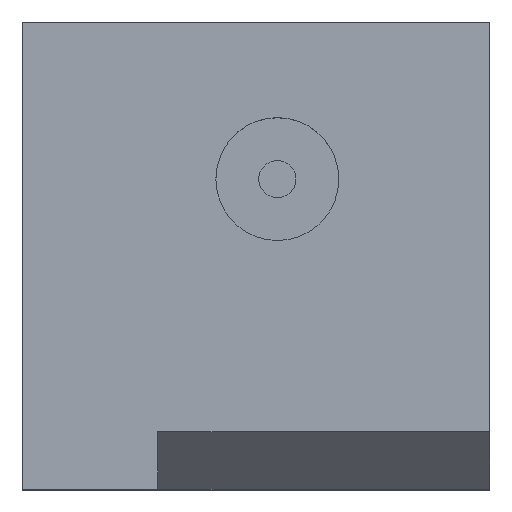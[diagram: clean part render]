
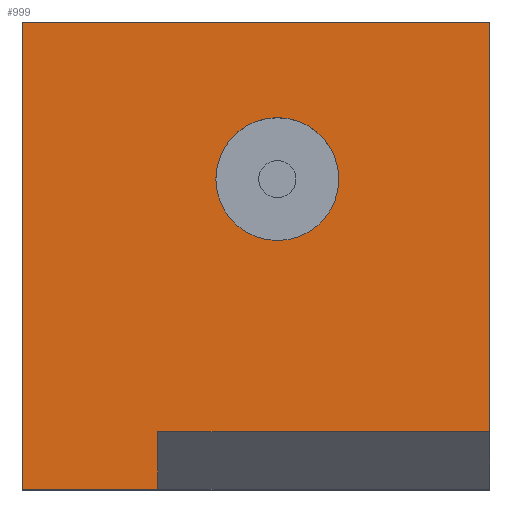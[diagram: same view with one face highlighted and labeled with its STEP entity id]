
A CAD part, top view. The second image highlights one B-rep face of the part: STEP entity #999.
In plain terms, the highlighted planar face has unit normal (0, 0, 1).
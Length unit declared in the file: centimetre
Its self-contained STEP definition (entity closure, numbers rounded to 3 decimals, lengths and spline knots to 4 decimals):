
#19 = VECTOR ( 'NONE', #462, 100. ) ;
#37 = ORIENTED_EDGE ( 'NONE', *, *, #60, .T. ) ;
#40 = CARTESIAN_POINT ( 'NONE',  ( 1000., 1000., 1000. ) ) ;
#43 = VERTEX_POINT ( 'NONE', #127 ) ;
#60 = EDGE_CURVE ( 'NONE', #861, #844, #694, .T. ) ;
#64 = CARTESIAN_POINT ( 'NONE',  ( 677.3129, 663.8071, 1000. ) ) ;
#68 = FACE_BOUND ( 'NONE', #585, .T. ) ;
#73 = EDGE_CURVE ( 'NONE', #896, #861, #1016, .T. ) ;
#83 = CARTESIAN_POINT ( 'NONE',  ( 414.0661, 663.8071, 1000. ) ) ;
#84 = ORIENTED_EDGE ( 'NONE', *, *, #194, .F. ) ;
#114 = EDGE_CURVE ( 'NONE', #844, #1018, #409, .T. ) ;
#127 = CARTESIAN_POINT ( 'NONE',  ( 0., 0., 1000. ) ) ;
#130 = VERTEX_POINT ( 'NONE', #83 ) ;
#148 = ORIENTED_EDGE ( 'NONE', *, *, #237, .T. ) ;
#155 = LINE ( 'NONE', #811, #334 ) ;
#194 = EDGE_CURVE ( 'NONE', #576, #130, #674, .T. ) ;
#202 = CARTESIAN_POINT ( 'NONE',  ( 289.9883, 123.3166, 1000. ) ) ;
#209 = AXIS2_PLACEMENT_3D ( 'NONE', #240, #628, #966 ) ;
#223 = CARTESIAN_POINT ( 'NONE',  ( 0., 1000., 1000. ) ) ;
#237 = EDGE_CURVE ( 'NONE', #43, #975, #155, .T. ) ;
#240 = CARTESIAN_POINT ( 'NONE',  ( 545.6895, 663.8071, 1000. ) ) ;
#248 = DIRECTION ( 'NONE',  ( 1., 0., 0. ) ) ;
#320 = CARTESIAN_POINT ( 'NONE',  ( 0., 0., 1000. ) ) ;
#329 = DIRECTION ( 'NONE',  ( -1., 0., 0. ) ) ;
#334 = VECTOR ( 'NONE', #790, 100. ) ;
#349 = CARTESIAN_POINT ( 'NONE',  ( 1000., 1000., 1000. ) ) ;
#409 = LINE ( 'NONE', #724, #460 ) ;
#441 = CIRCLE ( 'NONE', #698, 131.6234 ) ;
#460 = VECTOR ( 'NONE', #329, 100. ) ;
#462 = DIRECTION ( 'NONE',  ( 0., 1., 0. ) ) ;
#478 = DIRECTION ( 'NONE',  ( 0., -1., 0. ) ) ;
#493 = DIRECTION ( 'NONE',  ( 0., 0., 1. ) ) ;
#508 = VECTOR ( 'NONE', #774, 100. ) ;
#566 = CARTESIAN_POINT ( 'NONE',  ( 545.6895, 663.8071, 1000. ) ) ;
#571 = EDGE_CURVE ( 'NONE', #1018, #43, #1039, .T. ) ;
#576 = VERTEX_POINT ( 'NONE', #64 ) ;
#585 = EDGE_LOOP ( 'NONE', ( #84, #1038 ) ) ;
#599 = ORIENTED_EDGE ( 'NONE', *, *, #899, .F. ) ;
#605 = ORIENTED_EDGE ( 'NONE', *, *, #571, .T. ) ;
#609 = CARTESIAN_POINT ( 'NONE',  ( 289.9883, 123.3166, 1000. ) ) ;
#628 = DIRECTION ( 'NONE',  ( 0., 0., 1. ) ) ;
#642 = CARTESIAN_POINT ( 'NONE',  ( 1000., 123.3166, 1000. ) ) ;
#674 = CIRCLE ( 'NONE', #209, 131.6234 ) ;
#694 = LINE ( 'NONE', #40, #19 ) ;
#698 = AXIS2_PLACEMENT_3D ( 'NONE', #566, #493, #248 ) ;
#713 = FACE_OUTER_BOUND ( 'NONE', #918, .T. ) ;
#724 = CARTESIAN_POINT ( 'NONE',  ( 0., 1000., 1000. ) ) ;
#741 = ORIENTED_EDGE ( 'NONE', *, *, #73, .T. ) ;
#774 = DIRECTION ( 'NONE',  ( 1., 0., 0. ) ) ;
#790 = DIRECTION ( 'NONE',  ( 1., 0., 0. ) ) ;
#811 = CARTESIAN_POINT ( 'NONE',  ( 0., 0., 1000. ) ) ;
#833 = CARTESIAN_POINT ( 'NONE',  ( 0., 1000., 1000. ) ) ;
#844 = VERTEX_POINT ( 'NONE', #349 ) ;
#859 = VECTOR ( 'NONE', #478, 100. ) ;
#861 = VERTEX_POINT ( 'NONE', #642 ) ;
#862 = LINE ( 'NONE', #874, #859 ) ;
#874 = CARTESIAN_POINT ( 'NONE',  ( 289.9883, 0., 1000. ) ) ;
#894 = DIRECTION ( 'NONE',  ( 1., 0., 0. ) ) ;
#896 = VERTEX_POINT ( 'NONE', #202 ) ;
#897 = AXIS2_PLACEMENT_3D ( 'NONE', #320, #962, #894 ) ;
#899 = EDGE_CURVE ( 'NONE', #896, #975, #862, .T. ) ;
#918 = EDGE_LOOP ( 'NONE', ( #741, #37, #992, #605, #148, #599 ) ) ;
#962 = DIRECTION ( 'NONE',  ( 0., 0., 1. ) ) ;
#966 = DIRECTION ( 'NONE',  ( 1., 0., 0. ) ) ;
#975 = VERTEX_POINT ( 'NONE', #1022 ) ;
#992 = ORIENTED_EDGE ( 'NONE', *, *, #114, .T. ) ;
#999 = ADVANCED_FACE ( 'NONE', ( #68, #713 ), #1041, .T. ) ;
#1013 = EDGE_CURVE ( 'NONE', #130, #576, #441, .T. ) ;
#1016 = LINE ( 'NONE', #609, #508 ) ;
#1018 = VERTEX_POINT ( 'NONE', #833 ) ;
#1022 = CARTESIAN_POINT ( 'NONE',  ( 289.9883, 0., 1000. ) ) ;
#1038 = ORIENTED_EDGE ( 'NONE', *, *, #1013, .F. ) ;
#1039 = LINE ( 'NONE', #223, #1042 ) ;
#1041 = PLANE ( 'NONE',  #897 ) ;
#1042 = VECTOR ( 'NONE', #1045, 100. ) ;
#1045 = DIRECTION ( 'NONE',  ( 0., -1., 0. ) ) ;
